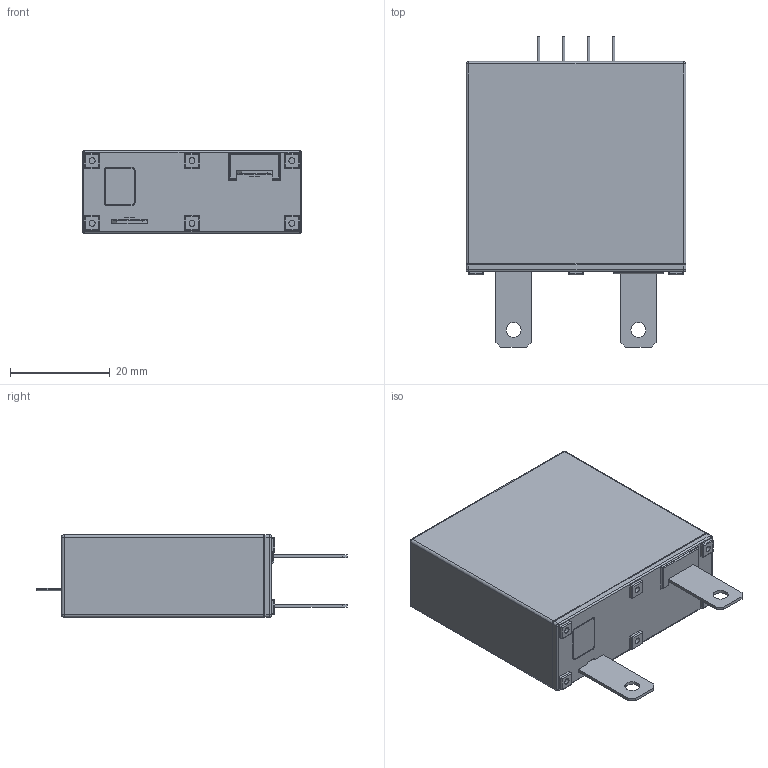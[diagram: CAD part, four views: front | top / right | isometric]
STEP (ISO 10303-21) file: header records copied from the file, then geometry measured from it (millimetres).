
FILE_DESCRIPTION((''),'2;1');
FILE_NAME('TFMOV40K-16-2IT-20200620','2020-08-12T',('SET-01114'),(''),'PRO/ENGINEER BY PARAMETRIC TECHNOLOGY CORPORATION, 2012310','PRO/ENGINEER BY PARAMETRIC TECHNOLOGY CORPORATION, 2012310','');
FILE_SCHEMA(('CONFIG_CONTROL_DESIGN','SHAPE_APPEARANCE_LAYERS_GROUPS'));
Length unit declared in the file: millimetre
Products named in the file (1): TFMOV40K-16-2IT-20200620
Bounding box: 44 x 62.2 x 16.5 mm (x, y, z)
Volume: 30595.7 mm3; surface area: 7263 mm2
Topology: 1 solids, 2 shells, 270 faces, 610 edges, 364 vertices
Faces by surface type: cylinder 117, plane 111, sphere 30, torus 8, bspline 4
Entity records: 9583 total; most frequent: CARTESIAN_POINT 1373, DIRECTION 1358, ORIENTED_EDGE 1220, PRESENTATION_STYLE_ASSIGNMENT 624, STYLED_ITEM 611, CURVE_STYLE 610, EDGE_CURVE 610, AXIS2_PLACEMENT_3D 492
